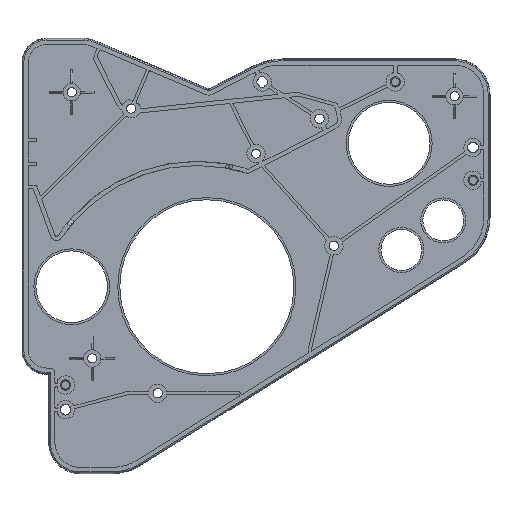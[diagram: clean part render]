
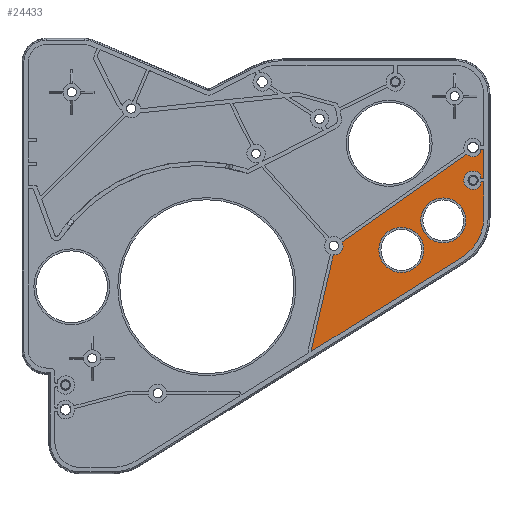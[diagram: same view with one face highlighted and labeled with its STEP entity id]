
A CAD part, left-side view. The second image highlights one B-rep face of the part: STEP entity #24433.
In plain terms, the highlighted planar face has unit normal (-1, 0, 0).
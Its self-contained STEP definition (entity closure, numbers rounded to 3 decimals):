
#7298=CARTESIAN_POINT('',(-15.7,-191.452,122.378));
#7299=DIRECTION('',(1.,0.,0.));
#7300=DIRECTION('',(0.,0.,1.));
#7301=AXIS2_PLACEMENT_3D('',#7298,#7299,#7300);
#7306=CARTESIAN_POINT('',(-15.7,-191.452,122.378));
#7307=DIRECTION('',(1.,0.,0.));
#7308=DIRECTION('',(0.,0.,-1.));
#7309=AXIS2_PLACEMENT_3D('',#7306,#7307,#7308);
#7314=CARTESIAN_POINT('',(-15.7,-171.,108.));
#7315=DIRECTION('',(1.,0.,0.));
#7316=DIRECTION('',(0.,0.,1.));
#7317=AXIS2_PLACEMENT_3D('',#7314,#7315,#7316);
#7322=CARTESIAN_POINT('',(-15.7,-171.,108.));
#7323=DIRECTION('',(1.,0.,0.));
#7324=DIRECTION('',(0.,0.,-1.));
#7325=AXIS2_PLACEMENT_3D('',#7322,#7323,#7324);
#8262=DIRECTION('',(0.,0.848,-0.53));
#8263=VECTOR('',#8262,86.063);
#8264=CARTESIAN_POINT('',(-15.7,-200.294,104.183));
#8265=LINE('',#8264,#8263);
#8269=DIRECTION('',(0.,0.53,0.848));
#8270=VECTOR('',#8269,0.4);
#8271=CARTESIAN_POINT('',(-15.7,-127.308,58.576));
#8272=LINE('',#8271,#8270);
#8276=CARTESIAN_POINT('',(-15.7,-127.435,59.128));
#8277=DIRECTION('',(-1.,0.,0.));
#8278=DIRECTION('',(0.,0.974,0.225));
#8279=AXIS2_PLACEMENT_3D('',#8276,#8277,#8278);
#8284=DIRECTION('',(0.,0.,1.));
#8285=VECTOR('',#8284,1.311);
#8286=CARTESIAN_POINT('',(-15.7,-209.7,155.439));
#8287=LINE('',#8286,#8285);
#8291=CARTESIAN_POINT('',(-15.7,-210.2,156.75));
#8292=DIRECTION('',(1.,0.,0.));
#8293=DIRECTION('',(0.,1.,0.));
#8294=AXIS2_PLACEMENT_3D('',#8291,#8292,#8293);
#8299=DIRECTION('',(0.,-1.,0.));
#8300=VECTOR('',#8299,0.5);
#8301=CARTESIAN_POINT('',(-15.7,-210.2,157.25));
#8302=LINE('',#8301,#8300);
#8306=CARTESIAN_POINT('',(-15.7,-210.7,156.75));
#8307=DIRECTION('',(-1.,0.,0.));
#8308=DIRECTION('',(0.,-1.,0.));
#8309=AXIS2_PLACEMENT_3D('',#8306,#8307,#8308);
#8314=CARTESIAN_POINT('',(-15.7,-210.7,143.25));
#8315=DIRECTION('',(-1.,0.,0.));
#8316=DIRECTION('',(0.,0.,-1.));
#8317=AXIS2_PLACEMENT_3D('',#8314,#8315,#8316);
#8322=DIRECTION('',(0.,1.,0.));
#8323=VECTOR('',#8322,0.5);
#8324=CARTESIAN_POINT('',(-15.7,-210.7,142.75));
#8325=LINE('',#8324,#8323);
#8329=CARTESIAN_POINT('',(-15.7,-210.2,143.25));
#8330=DIRECTION('',(1.,0.,0.));
#8331=DIRECTION('',(0.,0.,-1.));
#8332=AXIS2_PLACEMENT_3D('',#8329,#8330,#8331);
#8337=DIRECTION('',(0.,0.,1.));
#8338=VECTOR('',#8337,1.311);
#8339=CARTESIAN_POINT('',(-15.7,-209.7,143.25));
#8340=LINE('',#8339,#8338);
#8344=CARTESIAN_POINT('',(-15.7,-206.,142.));
#8345=DIRECTION('',(-1.,0.,0.));
#8346=DIRECTION('',(0.,-0.822,0.569));
#8347=AXIS2_PLACEMENT_3D('',#8344,#8345,#8346);
#8352=DIRECTION('',(0.,0.,1.));
#8353=VECTOR('',#8352,1.311);
#8354=CARTESIAN_POINT('',(-15.7,-209.7,139.439));
#8355=LINE('',#8354,#8353);
#8359=CARTESIAN_POINT('',(-15.7,-210.2,140.75));
#8360=DIRECTION('',(-1.,0.,0.));
#8361=DIRECTION('',(0.,0.,1.));
#8362=AXIS2_PLACEMENT_3D('',#8359,#8360,#8361);
#8367=DIRECTION('',(0.,-1.,0.));
#8368=VECTOR('',#8367,0.5);
#8369=CARTESIAN_POINT('',(-15.7,-210.2,141.25));
#8370=LINE('',#8369,#8368);
#8374=CARTESIAN_POINT('',(-15.7,-210.7,140.75));
#8375=DIRECTION('',(1.,0.,0.));
#8376=DIRECTION('',(0.,0.,1.));
#8377=AXIS2_PLACEMENT_3D('',#8374,#8375,#8376);
#8382=CARTESIAN_POINT('',(-15.7,-188.,123.858));
#8383=DIRECTION('',(1.,0.,0.));
#8384=DIRECTION('',(0.,-1.,0.));
#8385=AXIS2_PLACEMENT_3D('',#8382,#8383,#8384);
#9267=CARTESIAN_POINT('',(-15.7,-138.,110.));
#9268=DIRECTION('',(1.,0.,0.));
#9269=DIRECTION('',(0.,-0.902,0.431));
#9270=AXIS2_PLACEMENT_3D('',#9267,#9268,#9269);
#9404=DIRECTION('',(0.,0.225,-0.974));
#9405=VECTOR('',#9404,47.508);
#9406=CARTESIAN_POINT('',(-15.7,-137.733,105.508));
#9407=LINE('',#9406,#9405);
#9461=DIRECTION('',(0.,0.,1.));
#9462=VECTOR('',#9461,16.892);
#9463=CARTESIAN_POINT('',(-15.7,-211.2,123.858));
#9464=LINE('',#9463,#9462);
#9563=DIRECTION('',(0.,0.,1.));
#9564=VECTOR('',#9563,13.5);
#9565=CARTESIAN_POINT('',(-15.7,-211.2,143.25));
#9566=LINE('',#9565,#9564);
#9650=CARTESIAN_POINT('',(-15.7,-206.,158.));
#9651=DIRECTION('',(1.,0.,0.));
#9652=DIRECTION('',(0.,-0.822,-0.569));
#9653=AXIS2_PLACEMENT_3D('',#9650,#9651,#9652);
#10164=DIRECTION('',(0.,0.818,-0.575));
#10165=VECTOR('',#10164,74.39);
#10166=CARTESIAN_POINT('',(-15.7,-202.918,154.721));
#10167=LINE('',#10166,#10165);
#17160=CARTESIAN_POINT('',(-15.7,-209.7,155.439));
#17162=VERTEX_POINT('',#17160);
#17164=CARTESIAN_POINT('',(-15.7,-209.7,144.561));
#17166=VERTEX_POINT('',#17164);
#17168=CARTESIAN_POINT('',(-15.7,-209.7,139.439));
#17170=VERTEX_POINT('',#17168);
#17201=CARTESIAN_POINT('',(-15.7,-211.2,140.75));
#17203=VERTEX_POINT('',#17201);
#17205=CARTESIAN_POINT('',(-15.7,-210.7,141.25));
#17206=VERTEX_POINT('',#17205);
#17207=CARTESIAN_POINT('',(-15.7,-209.7,143.25));
#17209=VERTEX_POINT('',#17207);
#17211=CARTESIAN_POINT('',(-15.7,-210.2,142.75));
#17212=VERTEX_POINT('',#17211);
#17213=CARTESIAN_POINT('',(-15.7,-209.7,156.75));
#17214=CARTESIAN_POINT('',(-15.7,-210.2,157.25));
#17215=VERTEX_POINT('',#17213);
#17216=VERTEX_POINT('',#17214);
#17251=CARTESIAN_POINT('',(-15.7,-209.7,140.75));
#17252=VERTEX_POINT('',#17251);
#17349=CARTESIAN_POINT('',(-15.7,-210.2,141.25));
#17351=VERTEX_POINT('',#17349);
#17355=CARTESIAN_POINT('',(-15.7,-210.7,142.75));
#17357=VERTEX_POINT('',#17355);
#17359=CARTESIAN_POINT('',(-15.7,-211.2,143.25));
#17360=VERTEX_POINT('',#17359);
#17363=CARTESIAN_POINT('',(-15.7,-211.2,156.75));
#17365=VERTEX_POINT('',#17363);
#17367=CARTESIAN_POINT('',(-15.7,-210.7,157.25));
#17368=VERTEX_POINT('',#17367);
#17565=CARTESIAN_POINT('',(-15.7,-191.452,133.378));
#17566=CARTESIAN_POINT('',(-15.7,-191.452,111.378));
#17567=VERTEX_POINT('',#17565);
#17568=VERTEX_POINT('',#17566);
#17569=CARTESIAN_POINT('',(-15.7,-171.,119.));
#17570=CARTESIAN_POINT('',(-15.7,-171.,97.));
#17571=VERTEX_POINT('',#17569);
#17572=VERTEX_POINT('',#17570);
#17894=CARTESIAN_POINT('',(-15.7,-137.733,105.508));
#17896=VERTEX_POINT('',#17894);
#17905=CARTESIAN_POINT('',(-15.7,-202.918,154.721));
#17906=VERTEX_POINT('',#17905);
#18564=CARTESIAN_POINT('',(-15.7,-142.061,111.938));
#18566=VERTEX_POINT('',#18564);
#18943=CARTESIAN_POINT('',(-15.7,-211.2,123.858));
#18944=CARTESIAN_POINT('',(-15.7,-200.294,104.183));
#18945=VERTEX_POINT('',#18943);
#18946=VERTEX_POINT('',#18944);
#19243=CARTESIAN_POINT('',(-15.7,-127.046,59.217));
#19245=VERTEX_POINT('',#19243);
#19627=CARTESIAN_POINT('',(-15.7,-127.308,58.576));
#19628=CARTESIAN_POINT('',(-15.7,-127.096,58.916));
#19629=VERTEX_POINT('',#19627);
#19630=VERTEX_POINT('',#19628);
#24368=CARTESIAN_POINT('',(-15.7,0.,0.));
#24369=DIRECTION('',(1.,0.,0.));
#24370=DIRECTION('',(0.,0.,1.));
#24371=AXIS2_PLACEMENT_3D('',#24368,#24369,#24370);
#24372=PLANE('',#24371);
#24374=ORIENTED_EDGE('',*,*,#24373,.T.);
#24376=ORIENTED_EDGE('',*,*,#24375,.T.);
#24378=ORIENTED_EDGE('',*,*,#24377,.F.);
#24380=ORIENTED_EDGE('',*,*,#24379,.F.);
#24382=ORIENTED_EDGE('',*,*,#24381,.F.);
#24384=ORIENTED_EDGE('',*,*,#24383,.F.);
#24386=ORIENTED_EDGE('',*,*,#24385,.F.);
#24388=ORIENTED_EDGE('',*,*,#24387,.T.);
#24390=ORIENTED_EDGE('',*,*,#24389,.T.);
#24392=ORIENTED_EDGE('',*,*,#24391,.T.);
#24394=ORIENTED_EDGE('',*,*,#24393,.F.);
#24396=ORIENTED_EDGE('',*,*,#24395,.F.);
#24398=ORIENTED_EDGE('',*,*,#24397,.F.);
#24400=ORIENTED_EDGE('',*,*,#24399,.T.);
#24402=ORIENTED_EDGE('',*,*,#24401,.T.);
#24404=ORIENTED_EDGE('',*,*,#24403,.T.);
#24406=ORIENTED_EDGE('',*,*,#24405,.T.);
#24408=ORIENTED_EDGE('',*,*,#24407,.T.);
#24410=ORIENTED_EDGE('',*,*,#24409,.F.);
#24412=ORIENTED_EDGE('',*,*,#24411,.T.);
#24414=ORIENTED_EDGE('',*,*,#24413,.T.);
#24416=ORIENTED_EDGE('',*,*,#24415,.F.);
#24418=ORIENTED_EDGE('',*,*,#24417,.T.);
#24419=EDGE_LOOP('',(#24374,#24376,#24378,#24380,#24382,#24384,#24386,#24388,
#24390,#24392,#24394,#24396,#24398,#24400,#24402,#24404,#24406,#24408,#24410,
#24412,#24414,#24416,#24418));
#24420=FACE_OUTER_BOUND('',#24419,.F.);
#24422=ORIENTED_EDGE('',*,*,#24421,.F.);
#24424=ORIENTED_EDGE('',*,*,#24423,.F.);
#24425=EDGE_LOOP('',(#24422,#24424));
#24426=FACE_BOUND('',#24425,.F.);
#24428=ORIENTED_EDGE('',*,*,#24427,.F.);
#24430=ORIENTED_EDGE('',*,*,#24429,.F.);
#24431=EDGE_LOOP('',(#24428,#24430));
#24432=FACE_BOUND('',#24431,.F.);
#7302=CIRCLE('',#7301,11.);
#7310=CIRCLE('',#7309,11.);
#7318=CIRCLE('',#7317,11.);
#7326=CIRCLE('',#7325,11.);
#8280=CIRCLE('',#8279,0.4);
#8295=CIRCLE('',#8294,0.5);
#8310=CIRCLE('',#8309,0.5);
#8318=CIRCLE('',#8317,0.5);
#8333=CIRCLE('',#8332,0.5);
#8348=CIRCLE('',#8347,4.5);
#8363=CIRCLE('',#8362,0.5);
#8378=CIRCLE('',#8377,0.5);
#8386=CIRCLE('',#8385,23.2);
#9271=CIRCLE('',#9270,4.5);
#9654=CIRCLE('',#9653,4.5);
#24373=EDGE_CURVE('',#18946,#19629,#8265,.T.);
#24375=EDGE_CURVE('',#19629,#19630,#8272,.T.);
#24377=EDGE_CURVE('',#19245,#19630,#8280,.T.);
#24379=EDGE_CURVE('',#17896,#19245,#9407,.T.);
#24381=EDGE_CURVE('',#18566,#17896,#9271,.T.);
#24383=EDGE_CURVE('',#17906,#18566,#10167,.T.);
#24385=EDGE_CURVE('',#17162,#17906,#9654,.T.);
#24387=EDGE_CURVE('',#17162,#17215,#8287,.T.);
#24389=EDGE_CURVE('',#17215,#17216,#8295,.T.);
#24391=EDGE_CURVE('',#17216,#17368,#8302,.T.);
#24393=EDGE_CURVE('',#17365,#17368,#8310,.T.);
#24395=EDGE_CURVE('',#17360,#17365,#9566,.T.);
#24397=EDGE_CURVE('',#17357,#17360,#8318,.T.);
#24399=EDGE_CURVE('',#17357,#17212,#8325,.T.);
#24401=EDGE_CURVE('',#17212,#17209,#8333,.T.);
#24403=EDGE_CURVE('',#17209,#17166,#8340,.T.);
#24405=EDGE_CURVE('',#17166,#17170,#8348,.T.);
#24407=EDGE_CURVE('',#17170,#17252,#8355,.T.);
#24409=EDGE_CURVE('',#17351,#17252,#8363,.T.);
#24411=EDGE_CURVE('',#17351,#17206,#8370,.T.);
#24413=EDGE_CURVE('',#17206,#17203,#8378,.T.);
#24415=EDGE_CURVE('',#18945,#17203,#9464,.T.);
#24417=EDGE_CURVE('',#18945,#18946,#8386,.T.);
#24421=EDGE_CURVE('',#17567,#17568,#7302,.T.);
#24423=EDGE_CURVE('',#17568,#17567,#7310,.T.);
#24427=EDGE_CURVE('',#17571,#17572,#7318,.T.);
#24429=EDGE_CURVE('',#17572,#17571,#7326,.T.);
#24433=ADVANCED_FACE('',(#24420,#24426,#24432),#24372,.F.);
